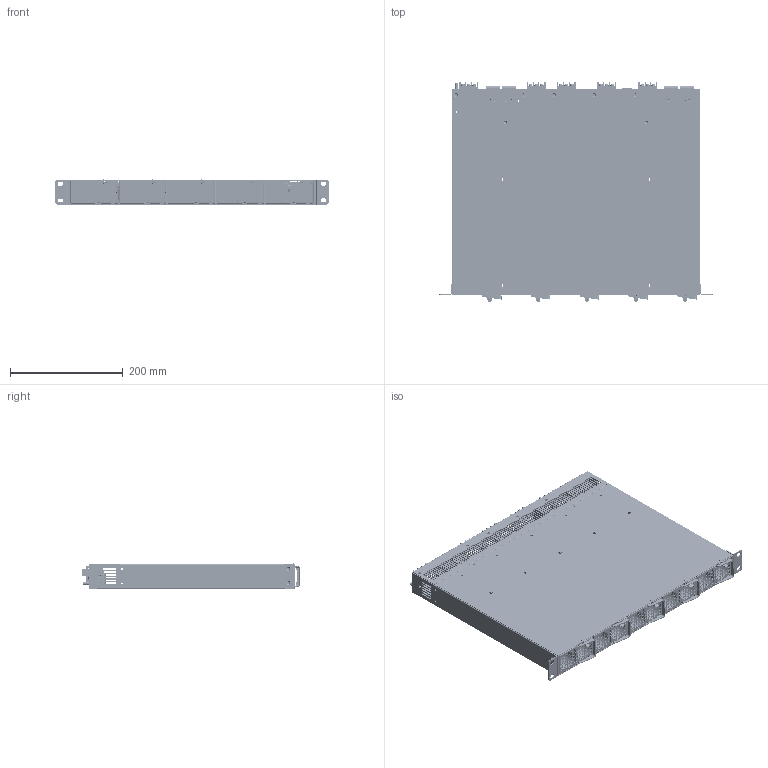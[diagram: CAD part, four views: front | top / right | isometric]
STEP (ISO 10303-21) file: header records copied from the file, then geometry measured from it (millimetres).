
FILE_DESCRIPTION(('Creo Elements/Direct Modeling STEP Export'),'2;1');
FILE_NAME('RHP-1UT.stp','2017-01-10T13:57:37',(''),(''),'PTC Creo Elements/Direct Modeling STEP processor for AP214 (Solid Model)','PTC Creo Elements/Direct Modeling 19.0 09-May-2014 (C) Parametric Technology GmbH','');
FILE_SCHEMA(('AUTOMOTIVE_DESIGN { 1 0 10303 214 1 1 1 1 }'));
Length unit declared in the file: millimetre
Products named in the file (58): 後SOKB; ˋ°Ûy; 底; 上蓋; p2; p1; p1.1; 下蓋組; ¤ïÊlÛyÊ\S\; ¤ïÊlÛyÊ§',
; ¨Ã£\; PHONE_JACK.1.1; 9727R_PCB; Standard; 9727R_PHII; ¨■¥ñ.1.1.1.1.1; SUB-9PIN; ¨■; cu2.1.1.1.1.2; SS; pcb; 後PCB; 把手1; ¤ïÊl.1.1.1.1.1; PCB2; 小板; M3-10Lê°˜W.1.1.1.1.1.1.1.1.1.1.1.1.1.1.2.2.1.1; n1.1.1; 後端子A; 銅片66; 把手B; a1; a2.1; B單機.1; B單機; C-B; C-C; a2; M3-7L.1; ÊU£\ ...
Assembly tree (77 placements, depth 8):
  ¤ïÊlÛyÊ\S\
  ¤ïÊlÛyÊ§',

  ¤ïÊlÛyÊ\S\
  1UT
    小板  x5
      PCB2
      ¤ïÊl.1.1.1.1.1
    單機.1.1.1.1  x5
      V
      a1
        mos
          TR-4RL.stp
            TR-4RL
        a1
          把手B
        p2
        952.1
          hs
          SS
          FN.1  x2
          MHL-24.stp
            MHL-24
          a1
          a1.3
        ÊU£\
          M3-7L.1
      a2
        C-C
        C-B
          B單機
          B單機.1
      a2.1
    p1.1
    a1
      把手B
    銅片66
    後端子A
      M3-10Lê°˜W.1.1.1.1.1.1.1.1.1.1.1.1.1.1.2.2.1.1  x4
      n1.1.1
    把手1
    後PCB
      pcb
      SS
        cu2.1.1.1.1.2  x4
        ¨■
          ¨■¥ñ.1.1.1.1.1  x5
          SUB-9PIN
          9727R_PHII
            Standard
              9727R_PCB
                PHONE_JACK.1.1
        ¨Ã£\
    下蓋組
      p1.1
      p1
      p2  x4
      上蓋
      底
        ˋ°Ûy
    後SOKB
Bounding box: 483.6 x 388.66 x 44.3 mm (x, y, z)
Volume: 1030357.7 mm3; surface area: 1608586.2 mm2
Topology: 81 solids, 81 shells, 6429 faces, 17514 edges, 11388 vertices
Faces by surface type: plane 4386, cylinder 1624, cone 208, torus 176, bspline 35
Entity records: 80562 total; most frequent: CARTESIAN_POINT 15124, ORIENTED_EDGE 13482, DIRECTION 12525, EDGE_CURVE 6741, VECTOR 4651, LINE 4651, VERTEX_POINT 4386, AXIS2_PLACEMENT_3D 3937
